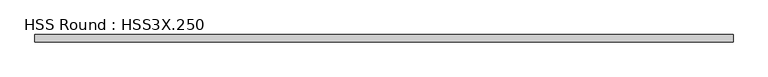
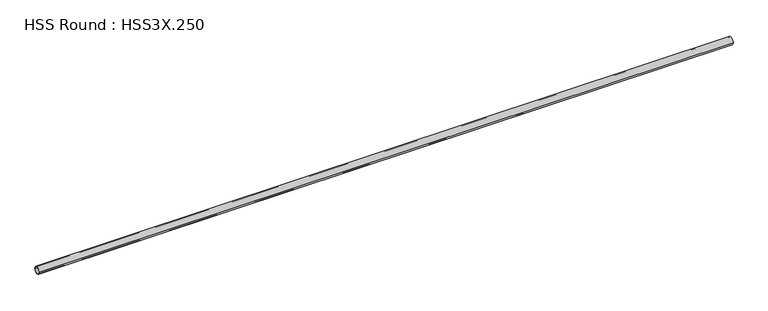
"""IFC4 building model written with IfcOpenShell, lengths in millimetres: member geometry, HSS Round : HSS3X.250."""

from ifc_helpers import new_model, si_unit, point, frame, origin, origin_2d, place, context, project, spatial, circle_curve, trimmed, segment, composite_curve, outline, extrude, source, transform, mapped, element, save


def hss_round_hss3x_250_dd1e542f(model_context):
    return source(origin(), model_context, "Body", "SweptSolid", [
        extrude(outline(composite_curve([segment(trimmed(circle_curve(origin_2d(), 38.1), [point((-38.1, 0.0))], [point((38.1, 0.0))], False, "CARTESIAN"), True, "CONTINUOUS"), segment(trimmed(circle_curve(origin_2d(), 38.1), [point((38.1, 0.0))], [point((-38.1, 0.0))], False, "CARTESIAN"), True, "CONTINUOUS")], self_intersect=False), holes=[composite_curve([segment(trimmed(circle_curve(origin_2d(), 31.75), [point((31.75, 0.0))], [point((-31.75, 0.0))], True, "CARTESIAN"), True, "CONTINUOUS"), segment(trimmed(circle_curve(origin_2d(), 31.75), [point((-31.75, 0.0))], [point((31.75, 0.0))], True, "CARTESIAN"), True, "CONTINUOUS")], self_intersect=False)]), frame((-3578.2504716, 0.0, 0.0), z_axis=(1.0, 0.0, 0.0), x_axis=(0.0, 1.0, 0.0)), (0.0, 0.0, 1.0), 7216.3772521),
    ])


if __name__ == "__main__":
    model = new_model("IFC4")
    model_context = context("Model", 3, world=origin())
    ifc_project = project(units=[si_unit("LENGTHUNIT", "METRE", prefix="MILLI")], contexts=[model_context])
    site = spatial("IfcSite", under=ifc_project)
    building = spatial("IfcBuilding", under=site)
    placement = place(None, origin())
    hss_round_hss3x_250_shape = hss_round_hss3x_250_dd1e542f(model_context)
    element("IfcMember", 1, ObjectType="HSS Round : HSS3X.250", at=placement, inside=building, context=model_context, shape_type="MappedRepresentation", body=[
        mapped(hss_round_hss3x_250_shape, transform((0.0, 0.0, 0.0), x_axis=(1.0, 0.0, 0.0), y_axis=(0.0, 1.0, 0.0), z_axis=(0.0, 0.0, 1.0))),
    ])
    save(model, "model.ifc")
